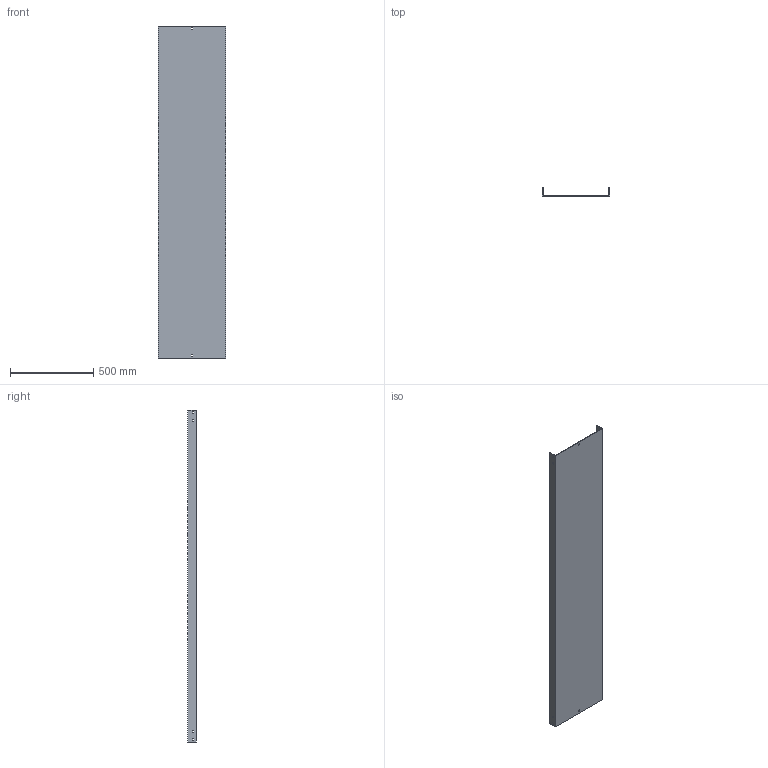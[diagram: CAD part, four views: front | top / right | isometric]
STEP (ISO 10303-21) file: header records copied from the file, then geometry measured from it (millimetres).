
FILE_DESCRIPTION (( 'STEP AP214' ), '1' );
FILE_NAME ('03F2B400.step', '2025-02-21T13:23:46', ( '' ), ( '' ), 'SwSTEP 2.0', 'SolidWorks 2023', '' );
FILE_SCHEMA (( 'AUTOMOTIVE_DESIGN' ));
Length unit declared in the file: millimetre
Products named in the file (1): 03F2B400
Bounding box: 404 x 52 x 2000 mm (x, y, z)
Volume: 3504630.5 mm3; surface area: 2021322 mm2
Topology: 1 solids, 1 shells, 50 faces, 144 edges, 96 vertices
Faces by surface type: plane 50
Entity records: 1671 total; most frequent: CARTESIAN_POINT 291, ORIENTED_EDGE 288, DIRECTION 246, VECTOR 144, LINE 144, EDGE_CURVE 144, VERTEX_POINT 96, EDGE_LOOP 70
